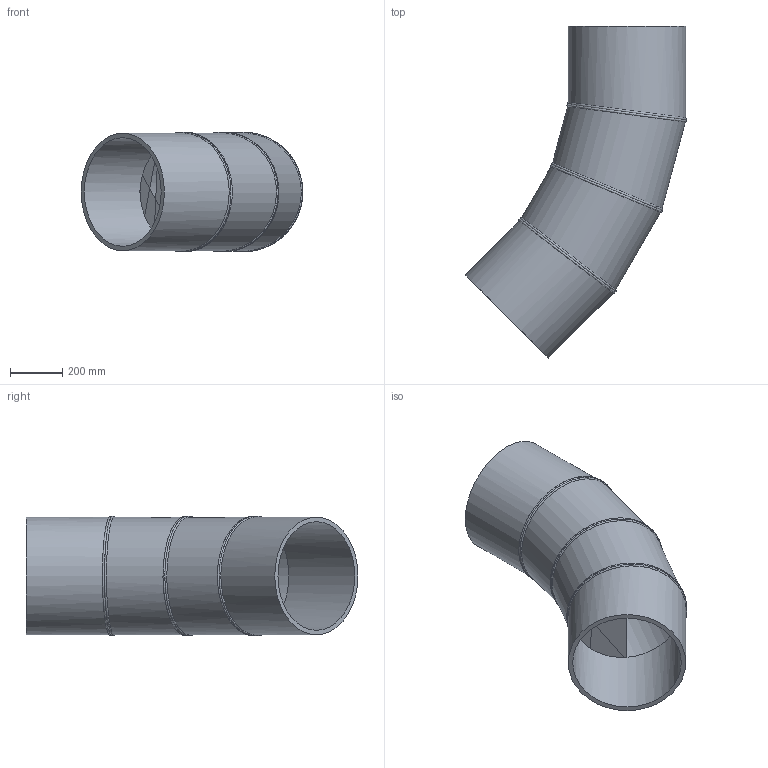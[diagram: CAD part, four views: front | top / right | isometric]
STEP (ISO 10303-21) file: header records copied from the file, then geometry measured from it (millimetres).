
FILE_DESCRIPTION(/* description */ ('Unknown'),/* implementation_level */ '2;1');
FILE_NAME(/* name */ 'Curva 45° a settore DE450 SDR26',/* time_stamp */ '2022-07-26T10:00:10+02:00',/* author */ ('Unknown'),/* organization */ ('Unknown'),/* preprocessor_version */ 'ST-DEVELOPER v18.102',/* originating_system */ 'Solid Edge',/* authorisation */ 'Unknown');
FILE_SCHEMA (('AUTOMOTIVE_DESIGN {1 0 10303 214 3 1 1}'));
Length unit declared in the file: millimetre
Products named in the file (3): Curva 45° a settore DE450 SDR26; Tubo x Gomito 45° DE450 SDR26 - 1; Tubo x Gomito 45° DE450 SDR26 - 2
Assembly tree (4 placements, depth 2):
  Curva 45° a settore DE450 SDR26
    Tubo x Gomito 45° DE450 SDR26 - 1  x2
    Tubo x Gomito 45° DE450 SDR26 - 2  x2
Bounding box: 848.24 x 1270 x 457.99 mm (x, y, z)
Volume: 29636210.5 mm3; surface area: 3648704.3 mm2
Topology: 4 solids, 4 shells, 34 faces, 74 edges, 48 vertices
Faces by surface type: cylinder 20, plane 8, bspline 6
Full cylindrical faces by diameter (mm): 415.6 x4, 450 x4
Entity records: 2414 total; most frequent: CARTESIAN_POINT 2012, DIRECTION 72, ORIENTED_EDGE 52, AXIS2_PLACEMENT_3D 36, EDGE_LOOP 28, FACE_BOUND 28, EDGE_CURVE 26, VERTEX_POINT 20
